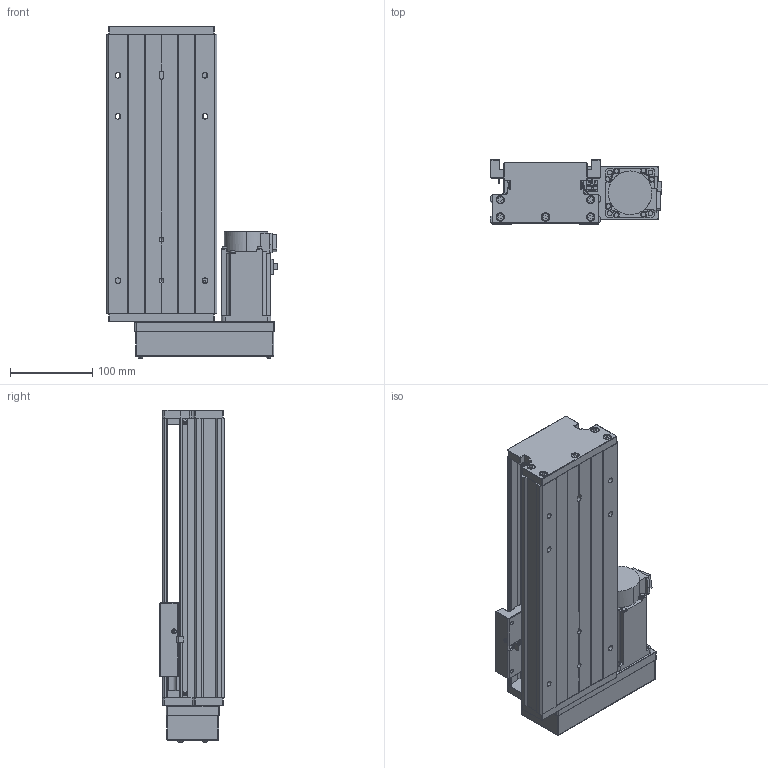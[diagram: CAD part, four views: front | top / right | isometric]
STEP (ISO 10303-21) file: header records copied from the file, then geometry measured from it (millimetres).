
FILE_DESCRIPTION (( 'STEP AP203' ), '1' );
FILE_NAME ('KTH130-200-BR-M40-C4.step', '2023-06-30T04:10:46', ( '微软用户' ), ( '微软中国' ), 'SwSTEP 2.0', 'SolidWorks 2020', '' );
FILE_SCHEMA (( 'CONFIG_CONTROL_DESIGN' ));
Length unit declared in the file: millimetre
Products named in the file (19): GBT70.1 M5℅16; す晦芛蹟隊 M3℅5; GBT 70.2-M3¡Á5_M3¡Á6; GBT 70.3-M3℅8; GTH14-001_200; CTHA60-017; HG-KN43J-S100; KTH130-002_KTH130-002; EE_SX911P_R; GBT 70.2-M4¡Á35_M4¡Á35; KTH130-004; CTHA60-016; GTH14-015-2_CTHA86-015-2; KTH130-005; GBT 70.1-M3℅5; GTH14-033; GB1155-6X6; GBT77-2000 M3×3; KTH130-200-BR-M40-C4
Assembly tree (53 placements, depth 2):
  KTH130-200-BR-M40-C4
    GTH14-001_200
    KTH130-002_KTH130-002
    KTH130-004
    KTH130-005
    GB1155-6X6  x2
    GBT70.1 M5℅16  x10
    GBT 70.2-M3¡Á5_M3¡Á6  x4
    CTHA60-017  x3
    EE_SX911P_R  x3
    CTHA60-016  x2
    GBT 70.1-M3℅5  x6
    GBT77-2000 M3×3  x6
    す晦芛蹟隊 M3℅5  x2
    GBT 70.3-M3℅8  x4
    HG-KN43J-S100
    GBT 70.2-M4¡Á35_M4¡Á35  x4
    GTH14-015-2_CTHA86-015-2
    GTH14-033
Bounding box: 209.3 x 78 x 404.2 mm (x, y, z)
Volume: 2595180.8 mm3; surface area: 477233.2 mm2
Topology: 56 solids, 56 shells, 2203 faces, 5318 edges, 3310 vertices
Faces by surface type: plane 1193, cylinder 596, cone 290, torus 100, sphere 24
Entity records: 39942 total; most frequent: CARTESIAN_POINT 8534, DIRECTION 5919, ORIENTED_EDGE 5836, EDGE_CURVE 2918, AXIS2_PLACEMENT_3D 2026, LINE 1867, VECTOR 1867, VERTEX_POINT 1863
